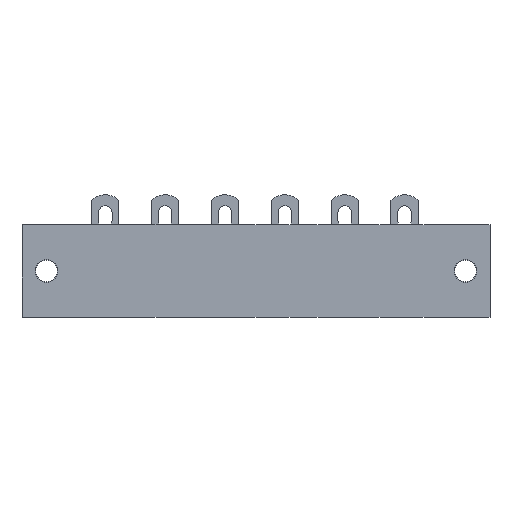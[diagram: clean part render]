
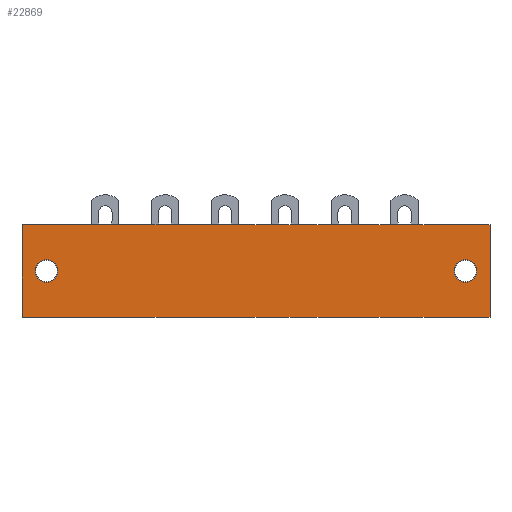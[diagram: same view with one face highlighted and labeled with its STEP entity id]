
A CAD part, front view. The second image highlights one B-rep face of the part: STEP entity #22869.
In plain terms, the highlighted planar face has unit normal (0, -1, 0).
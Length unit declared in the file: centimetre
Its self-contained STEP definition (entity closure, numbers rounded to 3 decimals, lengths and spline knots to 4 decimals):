
#977=VECTOR('',#24292,1.);
#1495=VECTOR('',#25128,1.);
#3091=VECTOR('',#28361,1.);
#3092=VECTOR('',#28362,1.);
#3530=LINE('',#29953,#977);
#4048=LINE('',#31856,#1495);
#5644=LINE('',#36150,#3091);
#5645=LINE('',#36151,#3092);
#6153=VERTEX_POINT('',#29954);
#6154=VERTEX_POINT('',#29955);
#6165=VERTEX_POINT('',#29979);
#6632=VERTEX_POINT('',#31857);
#6633=VERTEX_POINT('',#31858);
#6644=VERTEX_POINT('',#31882);
#8067=CIRCLE('',#36339,0.21);
#8115=CIRCLE('',#36581,0.21);
#9005=EDGE_CURVE('',#6153,#6154,#3530,.T.);
#9017=EDGE_CURVE('',#6165,#6165,#8067,.T.);
#9692=EDGE_CURVE('',#6632,#6633,#4048,.T.);
#9704=EDGE_CURVE('',#6644,#6644,#8115,.T.);
#11901=EDGE_CURVE('',#6633,#6153,#5644,.T.);
#11902=EDGE_CURVE('',#6154,#6632,#5645,.T.);
#18683=ORIENTED_EDGE('',*,*,#9017,.T.);
#18684=ORIENTED_EDGE('',*,*,#9704,.T.);
#18685=ORIENTED_EDGE('',*,*,#11901,.T.);
#18686=ORIENTED_EDGE('',*,*,#9005,.T.);
#18687=ORIENTED_EDGE('',*,*,#11902,.T.);
#18688=ORIENTED_EDGE('',*,*,#9692,.T.);
#20199=EDGE_LOOP('',(#18683));
#20200=EDGE_LOOP('',(#18684));
#20201=EDGE_LOOP('',(#18685,#18686,#18687,#18688));
#21607=FACE_BOUND('',#20199,.T.);
#21608=FACE_BOUND('',#20200,.T.);
#21609=FACE_BOUND('',#20201,.T.);
#22869=ADVANCED_FACE('',(#21607,#21608,#21609),#23691,.T.);
#23691=PLANE('',#37649);
#24292=DIRECTION('',(0.,0.,1.));
#24310=DIRECTION('',(0.,1.,0.));
#24311=DIRECTION('',(0.21,0.,0.));
#25128=DIRECTION('',(0.,0.,-1.));
#25146=DIRECTION('',(0.,1.,0.));
#25147=DIRECTION('',(-0.21,0.,0.));
#28360=DIRECTION('',(0.,-1.,0.));
#28361=DIRECTION('',(1.,0.,0.));
#28362=DIRECTION('',(-1.,0.,0.));
#29953=CARTESIAN_POINT('',(6.6,0.,0.85));
#29954=CARTESIAN_POINT('',(6.6,0.,-0.85));
#29955=CARTESIAN_POINT('',(6.6,0.,0.85));
#29978=CARTESIAN_POINT('',(6.15,0.,0.));
#29979=CARTESIAN_POINT('',(5.94,0.,0.));
#31856=CARTESIAN_POINT('',(-2.,0.,-0.85));
#31857=CARTESIAN_POINT('',(-2.,0.,0.85));
#31858=CARTESIAN_POINT('',(-2.,0.,-0.85));
#31881=CARTESIAN_POINT('',(-1.55,0.,0.));
#31882=CARTESIAN_POINT('',(-1.34,0.,0.));
#36149=CARTESIAN_POINT('',(0.,0.,0.));
#36150=CARTESIAN_POINT('',(0.,0.,-0.85));
#36151=CARTESIAN_POINT('',(-1.1,0.,0.85));
#36339=AXIS2_PLACEMENT_3D('',#29978,#24310,#24311);
#36581=AXIS2_PLACEMENT_3D('',#31881,#25146,#25147);
#37649=AXIS2_PLACEMENT_3D('',#36149,#28360,$);
